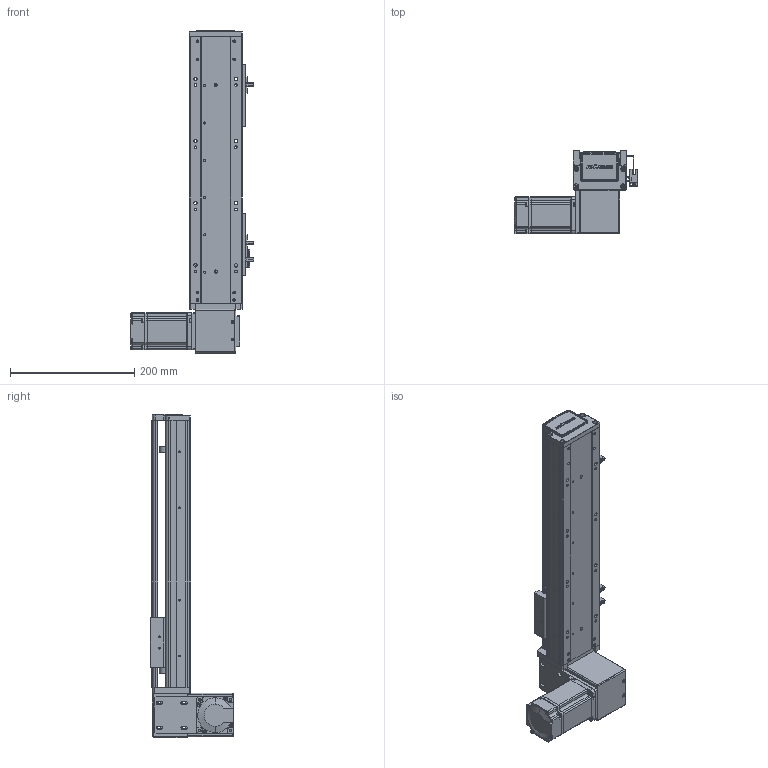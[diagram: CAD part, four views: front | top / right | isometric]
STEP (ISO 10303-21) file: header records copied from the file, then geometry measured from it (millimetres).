
FILE_DESCRIPTION (( 'STEP AP203' ), '1' );
FILE_NAME ('RY80-T-300-DL.SLDASM_250.step', '2021-03-01T01:37:33', ( '盈信电脑' ), ( '东莞市道滘镇水果街19号' ), 'SwSTEP 2.0', 'SolidWorks 2012', '' );
FILE_SCHEMA (( 'CONFIG_CONTROL_DESIGN' ));
Products named in the file (19): RY80-T-300-DL.SLDASM_250; RY100-T粣創揤踡裔; RY80-T-上下折同步轮盖板; RY80-T-M4蹟翐3; RY80-T肮祭謫狟殏俋欶; 1; RY80-T萇儂假蚾啣; 滅袉蝶18-10; RY80-T翋肮祭謫裔啣; RY80-T肮祭湍揤輸2; RY80-T肮祭湍揤輸1; RY80俋离覜茼え; 覜茼ん672; RY80-T-翋肮祭謫釱; 672嫖萇羲壽假蚾釱; RY80-T-300-DL倰第奻裔啣_250; RY80-T綴裔啣; RY80-T肮祭謫臏賑輸; RY80-T-300-DL倰第菁釱_250
Assembly tree (24 placements, depth 2):
  RY80-T-300-DL.SLDASM_250
    RY80-T-300-DL倰第菁釱_250
    RY80-T肮祭謫臏賑輸
    RY80-T-300-DL倰第奻裔啣_250
    RY80-T綴裔啣
    672嫖萇羲壽假蚾釱  x2
    覜茼ん672  x3
    RY80俋离覜茼え
    RY80-T-翋肮祭謫釱
    RY80-T肮祭湍揤輸1
    RY80-T肮祭湍揤輸2
    RY80-T萇儂假蚾啣
    RY80-T翋肮祭謫裔啣  x2
    滅袉蝶18-10  x2
    1
    RY80-T肮祭謫狟殏俋欶
    RY80-T-M4蹟翐3  x2
    RY80-T-上下折同步轮盖板
    RY100-T粣創揤踡裔
Bounding box: 198.7 x 134.5 x 520 mm (x, y, z)
Volume: 1215860.7 mm3; surface area: 486217.9 mm2
Topology: 24 solids, 24 shells, 2362 faces, 6470 edges, 4197 vertices
Faces by surface type: plane 1317, cylinder 843, cone 146, bspline 56
Entity records: 72703 total; most frequent: CARTESIAN_POINT 16824, ORIENTED_EDGE 11384, DIRECTION 10836, EDGE_CURVE 5692, VERTEX_POINT 3738, VECTOR 3640, LINE 3640, AXIS2_PLACEMENT_3D 3598
